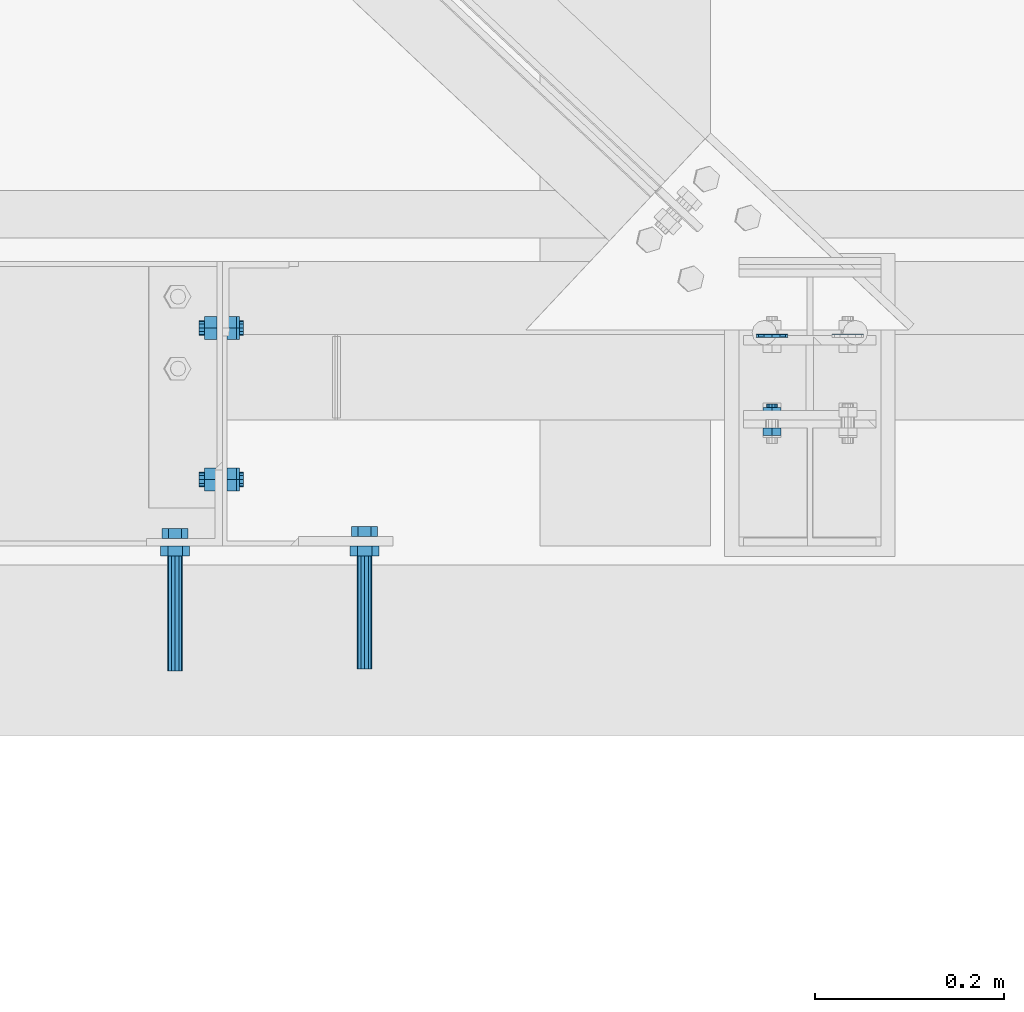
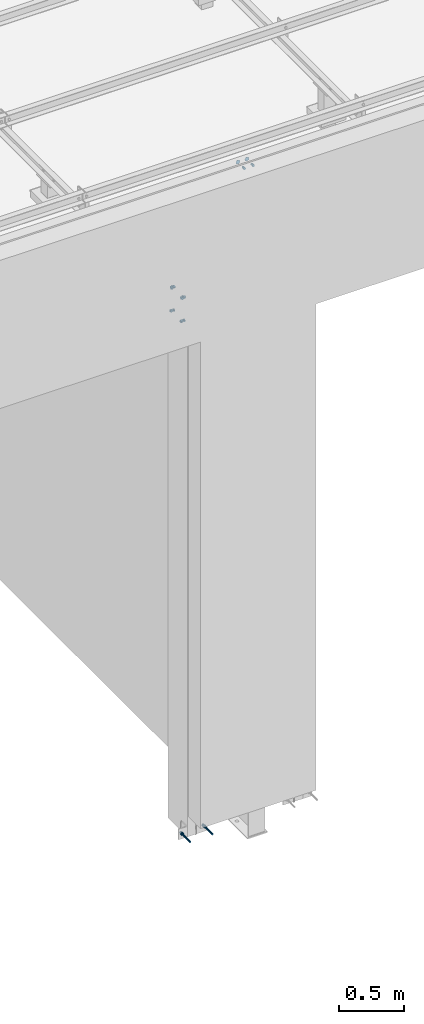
# One storey, part 309 of 3134: 6 mechanical fasteners, 4 elements without a shape of their own.
"""IFC2X3 building model written with IfcOpenShell, lengths in millimetres."""

from ifc_helpers import new_model, si_unit, frame, origin_with_axes, place, context, subcontext, project, spatial, faceted_brep, source, transform, mapped, material, type_object, element, aggregate, save


model = new_model("IFC2X3")

# Units and contexts
model_context = context("Model", 3, precision=1e-05, world=origin_with_axes())
body_context = subcontext(model_context, "Body", "Model", "MODEL_VIEW")
ifc_project = project(units=[si_unit("LENGTHUNIT", "METRE", prefix="MILLI"), si_unit("AREAUNIT", "SQUARE_METRE"), si_unit("VOLUMEUNIT", "CUBIC_METRE"), si_unit("MASSUNIT", "GRAM", prefix="KILO"), si_unit("TIMEUNIT", "SECOND"), si_unit("PLANEANGLEUNIT", "RADIAN"), si_unit("SOLIDANGLEUNIT", "STERADIAN"), si_unit("THERMODYNAMICTEMPERATUREUNIT", "DEGREE_CELSIUS"), si_unit("LUMINOUSINTENSITYUNIT", "LUMEN")], contexts=[model_context])

# Site, building, storey
site_placement = place(None, origin_with_axes())
site = spatial("IfcSite", under=ifc_project, at=site_placement, CompositionType="ELEMENT")
building_placement = place(site_placement, origin_with_axes())
building = spatial("IfcBuilding", under=site, at=building_placement, Name="Undefined", CompositionType="ELEMENT")
storey_placement = place(building_placement, origin_with_axes())
storey = spatial("IfcBuildingStorey", under=building, at=storey_placement, Name="Undefined", CompositionType="ELEMENT", Elevation=0.0)

# Assembly, mechanical fastener
assembly_1_placement = place(storey_placement, origin_with_axes())
assembly_1 = element("IfcElementAssembly", 1, at=assembly_1_placement, inside=storey, AssemblyPlace="NOTDEFINED", PredefinedType="RIGID_FRAME")
ifc_material_1 = material(Name="8.8")
mechanical_fastener_type = type_object("IfcMechanicalFastenerType", Name="Bolt assembly")
shared_shape_1 = source(origin_with_axes(), body_context, "Body", "Brep", [
    faceted_brep([(16.5, -3.0, 0.0), (14.289419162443, -3.0, 8.25000000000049), (8.24999999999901, -3.0, 14.2894191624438), (-1.70995436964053e-12, -3.0, 16.5), (-8.25000000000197, -3.0, 14.2894191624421), (-14.2894191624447, -3.0, 8.24999999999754), (-16.5, -3.0, -3.41990873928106e-12), (-14.2894191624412, -3.0, -8.25000000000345), (-8.24999999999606, -3.0, -14.2894191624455), (5.11154442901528e-12, -3.0, -16.5), (8.25000000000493, -3.0, -14.2894191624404), (14.2894191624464, -3.0, -8.24999999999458), (14.2894191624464, 0.1, -8.24999999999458), (8.25000000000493, 0.1, -14.2894191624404), (5.11154442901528e-12, 0.1, -16.5), (-8.24999999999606, 0.1, -14.2894191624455), (-14.2894191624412, 0.1, -8.25000000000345), (-16.5, 0.1, -3.41990873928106e-12), (-14.2894191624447, 0.1, 8.24999999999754), (-8.25000000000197, 0.1, 14.2894191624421), (-1.70995436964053e-12, 0.1, 16.5), (8.24999999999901, 0.1, 14.2894191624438), (14.289419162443, 0.1, 8.25000000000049), (16.5, 0.1, 0.0)], [[[0, 1, 2, 3, 4, 5, 6, 7, 8, 9, 10, 11]], [[12, 13, 14, 15, 16, 17, 18, 19, 20, 21, 22, 23]], [[0, 23, 22, 1]], [[1, 22, 21, 2]], [[2, 21, 20, 3]], [[3, 20, 19, 4]], [[4, 19, 18, 5]], [[5, 18, 17, 6]], [[6, 17, 16, 7]], [[7, 16, 15, 8]], [[8, 15, 14, 9]], [[9, 14, 13, 10]], [[10, 13, 12, 11]], [[11, 12, 23, 0]]]),
])
mechanical_fastener_1_placement = place(assembly_1_placement, frame((74420.0, -2.0, 5844.99639945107), z_axis=(-1.0, 0.0, 0.0), x_axis=(0.0, 0.0, 1.0)))
mechanical_fastener_1 = element("IfcMechanicalFastener", 2, at=mechanical_fastener_1_placement, type_object=mechanical_fastener_type, material=ifc_material_1, Name="Bolt assembly", NominalDiameter=30.0, NominalLength=3.0, context=body_context, shape_type="MappedRepresentation", body=[
    mapped(shared_shape_1, transform((0.0, 0.0, -40.0))),
    mapped(shared_shape_1, transform((0.0, 0.0, 40.0))),
])

# Assembly, mechanical fasteners
assembly_2_placement = place(storey_placement, origin_with_axes())
assembly_2 = element("IfcElementAssembly", 3, at=assembly_2_placement, inside=storey, AssemblyPlace="NOTDEFINED", PredefinedType="RIGID_FRAME")
ifc_material_2 = material(Name="HILTI-HSA")
shared_shape_2 = source(origin_with_axes(), body_context, "Body", "Brep", [
    faceted_brep([(13.856406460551, -20.56, 0.0), (6.92820323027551, -20.56, 12.0), (-6.92820323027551, -20.56, 12.0), (-13.856406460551, -20.56, 1.69692038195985e-15), (-6.92820323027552, -20.56, -12.0), (6.9282032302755, -20.56, -12.0), (6.9282032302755, -10.0, -12.0), (-6.92820323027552, -10.0, -12.0), (-13.856406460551, -10.0, 1.69692038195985e-15), (-6.92820323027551, -10.0, 12.0), (6.92820323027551, -10.0, 12.0), (13.856406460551, -10.0, 0.0), (8.0, -10.0, 0.0), (6.92820323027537, -10.0, 4.00000000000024), (3.99999999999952, -10.0, 6.92820323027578), (-8.29068785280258e-13, -10.0, 8.0), (-4.00000000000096, -10.0, 6.92820323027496), (-6.9282032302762, -10.0, 3.99999999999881), (-8.0, -10.0, -1.65813757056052e-12), (-6.92820323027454, -10.0, -4.00000000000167), (-3.99999999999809, -10.0, -6.92820323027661), (2.47832457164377e-12, -10.0, -8.0), (4.00000000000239, -10.0, -6.92820323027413), (6.92820323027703, -10.0, -3.99999999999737), (6.92820323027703, 130.0, -3.99999999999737), (4.00000000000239, 130.0, -6.92820323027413), (2.47832457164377e-12, 130.0, -8.0), (-3.99999999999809, 130.0, -6.92820323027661), (-6.92820323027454, 130.0, -4.00000000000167), (-8.0, 130.0, -1.65813757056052e-12), (-6.9282032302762, 130.0, 3.99999999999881), (-4.00000000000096, 130.0, 6.92820323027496), (-8.29068785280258e-13, 130.0, 8.0), (3.99999999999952, 130.0, 6.92820323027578), (6.92820323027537, 130.0, 4.00000000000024), (8.0, 130.0, 0.0), (15.3344231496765, 7.105427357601e-15, 0.0), (7.66721157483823, 7.105427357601e-15, 13.28), (-7.66721157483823, 7.105427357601e-15, 13.28), (-15.3344231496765, 7.105427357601e-15, 1.87792522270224e-15), (-7.66721157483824, 7.105427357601e-15, -13.28), (7.66721157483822, 7.105427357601e-15, -13.28), (7.66721157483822, 10.56, -13.28), (-7.66721157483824, 10.56, -13.28), (-15.3344231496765, 10.56, 1.87792522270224e-15), (-7.66721157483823, 10.56, 13.28), (7.66721157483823, 10.56, 13.28), (15.3344231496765, 10.56, 0.0)], [[[0, 1, 2, 3, 4, 5]], [[6, 7, 8, 9, 10, 11]], [[0, 11, 10, 1]], [[1, 10, 9, 2]], [[2, 9, 8, 3]], [[3, 8, 7, 4]], [[4, 7, 6, 5]], [[5, 6, 11, 0]], [[12, 13, 14, 15, 16, 17, 18, 19, 20, 21, 22, 23]], [[24, 25, 26, 27, 28, 29, 30, 31, 32, 33, 34, 35]], [[12, 35, 34, 13]], [[13, 34, 33, 14]], [[14, 33, 32, 15]], [[15, 32, 31, 16]], [[16, 31, 30, 17]], [[17, 30, 29, 18]], [[18, 29, 28, 19]], [[19, 28, 27, 20]], [[20, 27, 26, 21]], [[21, 26, 25, 22]], [[22, 25, 24, 23]], [[23, 24, 35, 12]], [[36, 37, 38, 39, 40, 41]], [[42, 43, 44, 45, 46, 47]], [[36, 47, 46, 37]], [[37, 46, 45, 38]], [[38, 45, 44, 39]], [[39, 44, 43, 40]], [[40, 43, 42, 41]], [[41, 42, 47, 36]]]),
    faceted_brep([(9.0, -10.0, 0.0), (7.79422863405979, -10.0, 4.50000000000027), (4.49999999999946, -10.0, 7.79422863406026), (-9.3270238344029e-13, -10.0, 9.0), (-4.50000000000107, -10.0, 7.79422863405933), (-7.79422863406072, -10.0, 4.49999999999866), (-9.0, -10.0, -1.86540476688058e-12), (-7.79422863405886, -10.0, -4.50000000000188), (-4.49999999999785, -10.0, -7.79422863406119), (2.78811514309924e-12, -10.0, -9.0), (4.50000000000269, -10.0, -7.7942286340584), (7.79422863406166, -10.0, -4.49999999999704), (7.79422863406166, 0.100000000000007, -4.49999999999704), (4.50000000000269, 0.100000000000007, -7.7942286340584), (2.78811514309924e-12, 0.100000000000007, -9.0), (-4.49999999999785, 0.100000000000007, -7.79422863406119), (-7.79422863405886, 0.100000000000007, -4.50000000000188), (-9.0, 0.100000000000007, -1.86540476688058e-12), (-7.79422863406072, 0.100000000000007, 4.49999999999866), (-4.50000000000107, 0.100000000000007, 7.79422863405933), (-9.3270238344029e-13, 0.100000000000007, 9.0), (4.49999999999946, 0.100000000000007, 7.79422863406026), (7.79422863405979, 0.100000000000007, 4.50000000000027), (9.0, 0.100000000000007, 0.0)], [[[0, 1, 2, 3, 4, 5, 6, 7, 8, 9, 10, 11]], [[12, 13, 14, 15, 16, 17, 18, 19, 20, 21, 22, 23]], [[0, 23, 22, 1]], [[1, 22, 21, 2]], [[2, 21, 20, 3]], [[3, 20, 19, 4]], [[4, 19, 18, 5]], [[5, 18, 17, 6]], [[6, 17, 16, 7]], [[7, 16, 15, 8]], [[8, 15, 14, 9]], [[9, 14, 13, 10]], [[10, 13, 12, 11]], [[11, 12, 23, 0]]]),
])
mechanical_fastener_2_placement = place(assembly_2_placement, frame((73950.0, -225.0, -150.0), z_axis=(0.0, 0.0, 1.0), x_axis=(-1.0, 0.0, 0.0)))
mechanical_fastener_2 = element("IfcMechanicalFastener", 4, at=mechanical_fastener_2_placement, type_object=mechanical_fastener_type, material=ifc_material_2, Name="Bolt assembly", NominalDiameter=16.0, NominalLength=140.0, context=body_context, shape_type="MappedRepresentation", body=[
    mapped(shared_shape_2, transform((0.0, 0.0, 0.0))),
])
shared_shape_3 = source(origin_with_axes(), body_context, "Body", "Brep", [
    faceted_brep([(13.856406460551, -18.56, 0.0), (6.92820323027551, -18.56, 12.0), (-6.92820323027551, -18.56, 12.0), (-13.856406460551, -18.56, 1.69692038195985e-15), (-6.92820323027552, -18.56, -12.0), (6.9282032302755, -18.56, -12.0), (6.9282032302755, -7.99999766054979, -12.0), (-6.92820323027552, -7.99999766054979, -12.0), (-13.856406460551, -7.99999766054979, 1.69692038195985e-15), (-6.92820323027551, -7.99999766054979, 12.0), (6.92820323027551, -7.99999766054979, 12.0), (13.856406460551, -7.99999766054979, 0.0), (8.0, -8.0, 0.0), (6.92820323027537, -8.0, 4.00000000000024), (3.99999999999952, -8.0, 6.92820323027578), (-8.29068785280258e-13, -8.0, 8.0), (-4.00000000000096, -8.0, 6.92820323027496), (-6.9282032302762, -8.0, 3.99999999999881), (-8.0, -8.0, -1.65813757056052e-12), (-6.92820323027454, -8.0, -4.00000000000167), (-3.99999999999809, -8.0, -6.92820323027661), (2.47832457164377e-12, -8.0, -8.0), (4.00000000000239, -8.0, -6.92820323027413), (6.92820323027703, -8.0, -3.99999999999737), (6.92820323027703, 132.0, -3.99999999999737), (4.00000000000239, 132.0, -6.92820323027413), (2.47832457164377e-12, 132.0, -8.0), (-3.99999999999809, 132.0, -6.92820323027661), (-6.92820323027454, 132.0, -4.00000000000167), (-8.0, 132.0, -1.65813757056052e-12), (-6.9282032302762, 132.0, 3.99999999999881), (-4.00000000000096, 132.0, 6.92820323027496), (-8.29068785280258e-13, 132.0, 8.0), (3.99999999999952, 132.0, 6.92820323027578), (6.92820323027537, 132.0, 4.00000000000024), (8.0, 132.0, 0.0), (15.3344231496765, 7.105427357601e-15, 0.0), (7.66721157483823, 7.105427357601e-15, 13.28), (-7.66721157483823, 7.105427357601e-15, 13.28), (-15.3344231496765, 7.105427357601e-15, 1.87792522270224e-15), (-7.66721157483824, 7.105427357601e-15, -13.28), (7.66721157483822, 7.105427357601e-15, -13.28), (7.66721157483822, 10.56, -13.28), (-7.66721157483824, 10.56, -13.28), (-15.3344231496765, 10.56, 1.87792522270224e-15), (-7.66721157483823, 10.56, 13.28), (7.66721157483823, 10.56, 13.28), (15.3344231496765, 10.56, 0.0)], [[[0, 1, 2, 3, 4, 5]], [[6, 7, 8, 9, 10, 11]], [[0, 11, 10, 1]], [[1, 10, 9, 2]], [[2, 9, 8, 3]], [[3, 8, 7, 4]], [[4, 7, 6, 5]], [[5, 6, 11, 0]], [[12, 13, 14, 15, 16, 17, 18, 19, 20, 21, 22, 23]], [[24, 25, 26, 27, 28, 29, 30, 31, 32, 33, 34, 35]], [[12, 35, 34, 13]], [[13, 34, 33, 14]], [[14, 33, 32, 15]], [[15, 32, 31, 16]], [[16, 31, 30, 17]], [[17, 30, 29, 18]], [[18, 29, 28, 19]], [[19, 28, 27, 20]], [[20, 27, 26, 21]], [[21, 26, 25, 22]], [[22, 25, 24, 23]], [[23, 24, 35, 12]], [[36, 37, 38, 39, 40, 41]], [[42, 43, 44, 45, 46, 47]], [[36, 47, 46, 37]], [[37, 46, 45, 38]], [[38, 45, 44, 39]], [[39, 44, 43, 40]], [[40, 43, 42, 41]], [[41, 42, 47, 36]]]),
    faceted_brep([(9.0, -8.0, 0.0), (7.79422863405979, -8.0, 4.50000000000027), (4.49999999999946, -8.0, 7.79422863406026), (-9.3270238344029e-13, -8.0, 9.0), (-4.50000000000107, -8.0, 7.79422863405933), (-7.79422863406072, -8.0, 4.49999999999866), (-9.0, -8.0, -1.86540476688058e-12), (-7.79422863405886, -8.0, -4.50000000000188), (-4.49999999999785, -8.0, -7.79422863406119), (2.78811514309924e-12, -8.0, -9.0), (4.50000000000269, -8.0, -7.7942286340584), (7.79422863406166, -8.0, -4.49999999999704), (7.79422863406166, 0.100000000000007, -4.49999999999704), (4.50000000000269, 0.100000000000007, -7.7942286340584), (2.78811514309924e-12, 0.100000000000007, -9.0), (-4.49999999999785, 0.100000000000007, -7.79422863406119), (-7.79422863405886, 0.100000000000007, -4.50000000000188), (-9.0, 0.100000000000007, -1.86540476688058e-12), (-7.79422863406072, 0.100000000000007, 4.49999999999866), (-4.50000000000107, 0.100000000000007, 7.79422863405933), (-9.3270238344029e-13, 0.100000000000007, 9.0), (4.49999999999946, 0.100000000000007, 7.79422863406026), (7.79422863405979, 0.100000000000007, 4.50000000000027), (9.0, 0.100000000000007, 0.0)], [[[0, 1, 2, 3, 4, 5, 6, 7, 8, 9, 10, 11]], [[12, 13, 14, 15, 16, 17, 18, 19, 20, 21, 22, 23]], [[0, 23, 22, 1]], [[1, 22, 21, 2]], [[2, 21, 20, 3]], [[3, 20, 19, 4]], [[4, 19, 18, 5]], [[5, 18, 17, 6]], [[6, 17, 16, 7]], [[7, 16, 15, 8]], [[8, 15, 14, 9]], [[9, 14, 13, 10]], [[10, 13, 12, 11]], [[11, 12, 23, 0]]]),
])
mechanical_fastener_3_placement = place(assembly_2_placement, frame((73750.0, -225.0, -150.0), z_axis=(0.0, 0.0, -1.0), x_axis=(1.0, 0.0, 0.0)))
mechanical_fastener_3 = element("IfcMechanicalFastener", 5, at=mechanical_fastener_3_placement, type_object=mechanical_fastener_type, material=ifc_material_2, Name="Bolt assembly", NominalDiameter=16.0, NominalLength=140.0, context=body_context, shape_type="MappedRepresentation", body=[
    mapped(shared_shape_3, transform((0.0, 0.0, 0.0))),
])
aggregate(assembly_2, [mechanical_fastener_3, mechanical_fastener_2])

# Assembly, mechanical fastener
assembly_3_placement = place(storey_placement, origin_with_axes())
assembly_3 = element("IfcElementAssembly", 6, at=assembly_3_placement, inside=storey, AssemblyPlace="NOTDEFINED", PredefinedType="RIGID_FRAME")
shared_shape_4 = source(origin_with_axes(), body_context, "Body", "Brep", [
    faceted_brep([(13.856406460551, -15.0000144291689, 0.0), (6.92820323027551, -15.0000144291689, 12.0), (-6.92820323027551, -15.0000144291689, 12.0), (-13.856406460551, -15.0000144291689, 1.69692038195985e-15), (-6.92820323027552, -15.0000144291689, -12.0), (6.9282032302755, -15.0000144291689, -12.0), (6.9282032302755, -5.00001442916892, -12.0), (-6.92820323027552, -5.00001442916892, -12.0), (-13.856406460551, -5.00001442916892, 1.69692038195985e-15), (-6.92820323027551, -5.00001442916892, 12.0), (6.92820323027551, -5.00001442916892, 12.0), (13.856406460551, -5.00001442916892, 0.0), (8.0, -5.00001442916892, 0.0), (6.92820323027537, -5.00001442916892, 4.00000000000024), (3.99999999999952, -5.00001442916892, 6.92820323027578), (-8.29068785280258e-13, -5.00001442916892, 8.0), (-4.00000000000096, -5.00001442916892, 6.92820323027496), (-6.9282032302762, -5.00001442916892, 3.99999999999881), (-8.0, -5.00001442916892, -1.65813757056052e-12), (-6.92820323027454, -5.00001442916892, -4.00000000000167), (-3.99999999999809, -5.00001442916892, -6.92820323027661), (2.47832457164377e-12, -5.00001442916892, -8.0), (4.00000000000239, -5.00001442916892, -6.92820323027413), (6.92820323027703, -5.00001442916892, -3.99999999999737), (6.92820323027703, 25.0, -3.99999999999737), (4.00000000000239, 25.0, -6.92820323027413), (2.47832457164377e-12, 25.0, -8.0), (-3.99999999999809, 25.0, -6.92820323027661), (-6.92820323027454, 25.0, -4.00000000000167), (-8.0, 25.0, -1.65813757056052e-12), (-6.9282032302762, 25.0, 3.99999999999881), (-4.00000000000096, 25.0, 6.92820323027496), (-8.29068785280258e-13, 25.0, 8.0), (3.99999999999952, 25.0, 6.92820323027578), (6.92820323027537, 25.0, 4.00000000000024), (8.0, 25.0, 0.0), (13.856406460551, 5.99999999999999, 0.0), (6.92820323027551, 5.99999999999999, 12.0), (-6.92820323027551, 5.99999999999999, 12.0), (-13.856406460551, 5.99999999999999, 1.69692038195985e-15), (-6.92820323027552, 5.99999999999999, -12.0), (6.9282032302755, 5.99999999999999, -12.0), (6.9282032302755, 19.0, -12.0), (-6.92820323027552, 19.0, -12.0), (-13.856406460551, 19.0, 1.69692038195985e-15), (-6.92820323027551, 19.0, 12.0), (6.92820323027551, 19.0, 12.0), (13.856406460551, 19.0, 0.0)], [[[0, 1, 2, 3, 4, 5]], [[6, 7, 8, 9, 10, 11]], [[0, 11, 10, 1]], [[1, 10, 9, 2]], [[2, 9, 8, 3]], [[3, 8, 7, 4]], [[4, 7, 6, 5]], [[5, 6, 11, 0]], [[12, 13, 14, 15, 16, 17, 18, 19, 20, 21, 22, 23]], [[24, 25, 26, 27, 28, 29, 30, 31, 32, 33, 34, 35]], [[12, 35, 34, 13]], [[13, 34, 33, 14]], [[14, 33, 32, 15]], [[15, 32, 31, 16]], [[16, 31, 30, 17]], [[17, 30, 29, 18]], [[18, 29, 28, 19]], [[19, 28, 27, 20]], [[20, 27, 26, 21]], [[21, 26, 25, 22]], [[22, 25, 24, 23]], [[23, 24, 35, 12]], [[36, 37, 38, 39, 40, 41]], [[42, 43, 44, 45, 46, 47]], [[36, 47, 46, 37]], [[37, 46, 45, 38]], [[38, 45, 44, 39]], [[39, 44, 43, 40]], [[40, 43, 42, 41]], [[41, 42, 47, 36]]]),
    faceted_brep([(9.0, -4.90001442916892, 0.0), (7.79422863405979, -4.90001442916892, 4.50000000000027), (4.49999999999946, -4.90001442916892, 7.79422863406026), (-9.3270238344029e-13, -4.90001442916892, 9.0), (-4.50000000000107, -4.90001442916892, 7.79422863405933), (-7.79422863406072, -4.90001442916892, 4.49999999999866), (-9.0, -4.90001442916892, -1.86540476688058e-12), (-7.79422863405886, -4.90001442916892, -4.50000000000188), (-4.49999999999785, -4.90001442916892, -7.79422863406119), (2.78811514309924e-12, -4.90001442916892, -9.0), (4.50000000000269, -4.90001442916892, -7.7942286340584), (7.79422863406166, -4.90001442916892, -4.49999999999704), (7.79422863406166, 0.100000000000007, -4.49999999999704), (4.50000000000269, 0.100000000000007, -7.7942286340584), (2.78811514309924e-12, 0.100000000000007, -9.0), (-4.49999999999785, 0.100000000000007, -7.79422863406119), (-7.79422863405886, 0.100000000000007, -4.50000000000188), (-9.0, 0.100000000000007, -1.86540476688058e-12), (-7.79422863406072, 0.100000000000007, 4.49999999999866), (-4.50000000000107, 0.100000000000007, 7.79422863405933), (-9.3270238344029e-13, 0.100000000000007, 9.0), (4.49999999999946, 0.100000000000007, 7.79422863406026), (7.79422863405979, 0.100000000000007, 4.50000000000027), (9.0, 0.100000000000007, 0.0), (9.0, -0.1, 0.0), (7.79422863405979, -0.1, 4.50000000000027), (4.49999999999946, -0.1, 7.79422863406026), (-9.3270238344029e-13, -0.1, 9.0), (-4.50000000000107, -0.1, 7.79422863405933), (-7.79422863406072, -0.1, 4.49999999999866), (-9.0, -0.1, -1.86540476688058e-12), (-7.79422863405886, -0.1, -4.50000000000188), (-4.49999999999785, -0.1, -7.79422863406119), (2.78811514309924e-12, -0.1, -9.0), (4.50000000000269, -0.1, -7.7942286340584), (7.79422863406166, -0.1, -4.49999999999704), (7.79422863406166, 5.99999999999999, -4.49999999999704), (4.50000000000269, 5.99999999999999, -7.7942286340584), (2.78811514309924e-12, 5.99999999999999, -9.0), (-4.49999999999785, 5.99999999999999, -7.79422863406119), (-7.79422863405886, 5.99999999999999, -4.50000000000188), (-9.0, 5.99999999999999, -1.86540476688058e-12), (-7.79422863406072, 5.99999999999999, 4.49999999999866), (-4.50000000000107, 5.99999999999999, 7.79422863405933), (-9.3270238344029e-13, 5.99999999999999, 9.0), (4.49999999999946, 5.99999999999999, 7.79422863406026), (7.79422863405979, 5.99999999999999, 4.50000000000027), (9.0, 5.99999999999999, 0.0)], [[[0, 1, 2, 3, 4, 5, 6, 7, 8, 9, 10, 11]], [[12, 13, 14, 15, 16, 17, 18, 19, 20, 21, 22, 23]], [[0, 23, 22, 1]], [[1, 22, 21, 2]], [[2, 21, 20, 3]], [[3, 20, 19, 4]], [[4, 19, 18, 5]], [[5, 18, 17, 6]], [[6, 17, 16, 7]], [[7, 16, 15, 8]], [[8, 15, 14, 9]], [[9, 14, 13, 10]], [[10, 13, 12, 11]], [[11, 12, 23, 0]], [[24, 25, 26, 27, 28, 29, 30, 31, 32, 33, 34, 35]], [[36, 37, 38, 39, 40, 41, 42, 43, 44, 45, 46, 47]], [[24, 47, 46, 25]], [[25, 46, 45, 26]], [[26, 45, 44, 27]], [[27, 44, 43, 28]], [[28, 43, 42, 29]], [[29, 42, 41, 30]], [[30, 41, 40, 31]], [[31, 40, 39, 32]], [[32, 39, 38, 33]], [[33, 38, 37, 34]], [[34, 37, 36, 35]], [[35, 36, 47, 24]]]),
])
mechanical_fastener_4_placement = place(assembly_3_placement, frame((73800.0, -75.0, 4640.0), z_axis=(0.0, -1.0, 0.0), x_axis=(0.0, 0.0, 1.0)))
mechanical_fastener_4 = element("IfcMechanicalFastener", 7, at=mechanical_fastener_4_placement, type_object=mechanical_fastener_type, material=ifc_material_1, Name="Bolt assembly", NominalDiameter=16.0, NominalLength=30.0, context=body_context, shape_type="MappedRepresentation", body=[
    mapped(shared_shape_4, transform((0.0, -5.32963895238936e-10, -79.9999999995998))),
    mapped(shared_shape_4, transform((0.0, 5.3114490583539e-10, 79.9999999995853))),
])
aggregate(assembly_3, [mechanical_fastener_4])

assembly_4_placement = place(storey_placement, origin_with_axes())
assembly_4 = element("IfcElementAssembly", 8, at=assembly_4_placement, inside=storey, AssemblyPlace="NOTDEFINED", PredefinedType="RIGID_FRAME")
shared_shape_5 = source(origin_with_axes(), body_context, "Body", "Brep", [
    faceted_brep([(13.856406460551, -10.0, 0.0), (6.92820323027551, -10.0, 12.0), (-6.92820323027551, -10.0, 12.0), (-13.856406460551, -10.0, 1.69692038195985e-15), (-6.92820323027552, -10.0, -12.0), (6.9282032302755, -10.0, -12.0), (6.9282032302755, 0.0, -12.0), (-6.92820323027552, 0.0, -12.0), (-13.856406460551, 0.0, 1.69692038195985e-15), (-6.92820323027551, 0.0, 12.0), (6.92820323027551, 0.0, 12.0), (13.856406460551, 0.0, 0.0), (8.0, 0.0, 0.0), (6.92820323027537, 0.0, 4.00000000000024), (3.99999999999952, 0.0, 6.92820323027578), (-8.29068785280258e-13, 0.0, 8.0), (-4.00000000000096, 0.0, 6.92820323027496), (-6.9282032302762, 0.0, 3.99999999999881), (-8.0, 0.0, -1.65813757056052e-12), (-6.92820323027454, 0.0, -4.00000000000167), (-3.99999999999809, 0.0, -6.92820323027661), (2.47832457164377e-12, 0.0, -8.0), (4.00000000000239, 0.0, -6.92820323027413), (6.92820323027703, 0.0, -3.99999999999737), (6.92820323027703, 29.9999969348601, -3.99999999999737), (4.00000000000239, 29.9999969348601, -6.92820323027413), (2.47832457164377e-12, 29.9999969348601, -8.0), (-3.99999999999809, 29.9999969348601, -6.92820323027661), (-6.92820323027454, 29.9999969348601, -4.00000000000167), (-8.0, 29.9999969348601, -1.65813757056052e-12), (-6.9282032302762, 29.9999969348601, 3.99999999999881), (-4.00000000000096, 29.9999969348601, 6.92820323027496), (-8.29068785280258e-13, 29.9999969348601, 8.0), (3.99999999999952, 29.9999969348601, 6.92820323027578), (6.92820323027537, 29.9999969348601, 4.00000000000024), (8.0, 29.9999969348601, 0.0), (13.856406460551, 12.9999996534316, 0.0), (6.92820323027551, 12.9999996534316, 12.0), (-6.92820323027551, 12.9999996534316, 12.0), (-13.856406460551, 12.9999996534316, 1.69692038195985e-15), (-6.92820323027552, 12.9999996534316, -12.0), (6.9282032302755, 12.9999996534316, -12.0), (6.9282032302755, 25.9999999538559, -12.0), (-6.92820323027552, 25.9999999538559, -12.0), (-13.856406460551, 25.9999999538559, 1.69692038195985e-15), (-6.92820323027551, 25.9999999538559, 12.0), (6.92820323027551, 25.9999999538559, 12.0), (13.856406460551, 25.9999999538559, 0.0)], [[[0, 1, 2, 3, 4, 5]], [[6, 7, 8, 9, 10, 11]], [[0, 11, 10, 1]], [[1, 10, 9, 2]], [[2, 9, 8, 3]], [[3, 8, 7, 4]], [[4, 7, 6, 5]], [[5, 6, 11, 0]], [[12, 13, 14, 15, 16, 17, 18, 19, 20, 21, 22, 23]], [[24, 25, 26, 27, 28, 29, 30, 31, 32, 33, 34, 35]], [[12, 35, 34, 13]], [[13, 34, 33, 14]], [[14, 33, 32, 15]], [[15, 32, 31, 16]], [[16, 31, 30, 17]], [[17, 30, 29, 18]], [[18, 29, 28, 19]], [[19, 28, 27, 20]], [[20, 27, 26, 21]], [[21, 26, 25, 22]], [[22, 25, 24, 23]], [[23, 24, 35, 12]], [[36, 37, 38, 39, 40, 41]], [[42, 43, 44, 45, 46, 47]], [[36, 47, 46, 37]], [[37, 46, 45, 38]], [[38, 45, 44, 39]], [[39, 44, 43, 40]], [[40, 43, 42, 41]], [[41, 42, 47, 36]]]),
    faceted_brep([(9.0, 7.9, 0.0), (7.79422863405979, 7.9, 4.50000000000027), (4.49999999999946, 7.9, 7.79422863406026), (-9.3270238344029e-13, 7.9, 9.0), (-4.50000000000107, 7.9, 7.79422863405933), (-7.79422863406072, 7.9, 4.49999999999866), (-9.0, 7.9, -1.86540476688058e-12), (-7.79422863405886, 7.9, -4.50000000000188), (-4.49999999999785, 7.9, -7.79422863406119), (2.78811514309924e-12, 7.9, -9.0), (4.50000000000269, 7.9, -7.7942286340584), (7.79422863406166, 7.9, -4.49999999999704), (7.79422863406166, 12.9999999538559, -4.49999999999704), (4.50000000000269, 12.9999999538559, -7.7942286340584), (2.78811514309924e-12, 12.9999999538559, -9.0), (-4.49999999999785, 12.9999999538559, -7.79422863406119), (-7.79422863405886, 12.9999999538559, -4.50000000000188), (-9.0, 12.9999999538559, -1.86540476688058e-12), (-7.79422863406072, 12.9999999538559, 4.49999999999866), (-4.50000000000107, 12.9999999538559, 7.79422863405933), (-9.3270238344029e-13, 12.9999999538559, 9.0), (4.49999999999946, 12.9999999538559, 7.79422863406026), (7.79422863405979, 12.9999999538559, 4.50000000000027), (9.0, 12.9999999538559, 0.0), (20.0, 0.0999999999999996, 0.0), (19.3149157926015, 0.0999999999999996, 3.44415089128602), (17.3639610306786, 0.0999999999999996, 6.36396103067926), (14.4441508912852, 0.0999999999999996, 8.31491579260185), (-11.0000000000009, 0.0999999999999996, 9.0), (-15.5000000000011, 0.0999999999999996, 7.79422863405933), (-18.7942286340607, 0.0999999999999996, 4.49999999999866), (-20.0, 0.0999999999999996, -1.86540476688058e-12), (-18.7942286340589, 0.0999999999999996, -4.50000000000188), (-15.4999999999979, 0.0999999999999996, -7.79422863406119), (-10.9999999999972, 0.0999999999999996, -9.0), (11.0000000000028, 0.0999999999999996, -9.0), (15.5000000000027, 0.0999999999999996, -7.7942286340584), (18.7942286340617, 0.0999999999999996, -4.49999999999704), (20.0, 8.1, 0.0), (18.7942286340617, 8.1, -4.49999999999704), (15.5000000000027, 8.1, -7.7942286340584), (11.0000000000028, 8.1, -9.0), (-10.9999999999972, 8.1, -9.0), (-15.4999999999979, 8.1, -7.79422863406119), (-18.7942286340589, 8.1, -4.50000000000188), (-20.0, 8.1, -1.86540476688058e-12), (-18.7942286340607, 8.1, 4.49999999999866), (-15.5000000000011, 8.1, 7.79422863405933), (-11.0000000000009, 8.1, 9.0), (14.4441508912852, 8.1, 8.31491579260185), (17.3639610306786, 8.1, 6.36396103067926), (19.3149157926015, 8.1, 3.44415089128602)], [[[0, 1, 2, 3, 4, 5, 6, 7, 8, 9, 10, 11]], [[12, 13, 14, 15, 16, 17, 18, 19, 20, 21, 22, 23]], [[0, 23, 22, 1]], [[1, 22, 21, 2]], [[2, 21, 20, 3]], [[3, 20, 19, 4]], [[4, 19, 18, 5]], [[5, 18, 17, 6]], [[6, 17, 16, 7]], [[7, 16, 15, 8]], [[8, 15, 14, 9]], [[9, 14, 13, 10]], [[10, 13, 12, 11]], [[11, 12, 23, 0]], [[24, 25, 26, 27, 28, 29, 30, 31, 32, 33, 34, 35, 36, 37]], [[38, 39, 40, 41, 42, 43, 44, 45, 46, 47, 48, 49, 50, 51]], [[24, 38, 51, 25]], [[25, 51, 50, 26]], [[26, 50, 49, 27]], [[27, 49, 48, 28]], [[28, 48, 47, 29]], [[29, 47, 46, 30]], [[30, 46, 45, 31]], [[31, 45, 44, 32]], [[32, 44, 43, 33]], [[33, 43, 42, 34]], [[34, 42, 41, 35]], [[35, 41, 40, 36]], [[36, 40, 39, 37]], [[37, 39, 38, 24]]]),
])
mechanical_fastener_5_placement = place(assembly_4_placement, frame((73792.0, -75.0, 4859.11), z_axis=(0.0, 1.0, 0.0), x_axis=(0.0, 0.0, 1.0)))
mechanical_fastener_5 = element("IfcMechanicalFastener", 9, at=mechanical_fastener_5_placement, type_object=mechanical_fastener_type, material=ifc_material_1, Name="Bolt assembly", NominalDiameter=16.0, NominalLength=30.0, context=body_context, shape_type="MappedRepresentation", body=[
    mapped(shared_shape_5, transform((0.0, -5.32963895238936e-10, -79.9999999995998))),
    mapped(shared_shape_5, transform((0.0, 5.3114490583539e-10, 79.9999999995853))),
])
aggregate(assembly_4, [mechanical_fastener_5])

# Mechanical fastener
shared_shape_6 = source(origin_with_axes(), body_context, "Body", "Brep", [
    faceted_brep([(10.9696551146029, -16.5, 0.0), (5.48482755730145, -16.5, 9.5), (-5.48482755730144, -16.5, 9.5), (-10.9696551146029, -16.5, 1.34339530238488e-15), (-5.48482755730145, -16.5, -9.5), (5.48482755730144, -16.5, -9.50000000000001), (5.48482755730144, -8.5, -9.50000000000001), (-5.48482755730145, -8.5, -9.5), (-10.9696551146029, -8.5, 1.34339530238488e-15), (-5.48482755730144, -8.5, 9.5), (5.48482755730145, -8.5, 9.5), (10.9696551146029, -8.5, 0.0), (6.0, -8.5, 0.0), (5.19615242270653, -8.5, 3.00000000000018), (2.99999999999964, -8.5, 5.19615242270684), (-6.21801588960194e-13, -8.5, 6.0), (-3.00000000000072, -8.5, 5.19615242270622), (-5.19615242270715, -8.5, 2.9999999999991), (-6.0, -8.5, -1.24360317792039e-12), (-5.19615242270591, -8.5, -3.00000000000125), (-2.99999999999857, -8.5, -5.19615242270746), (1.85874342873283e-12, -8.5, -6.0), (3.00000000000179, -8.5, -5.1961524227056), (5.19615242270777, -8.5, -2.99999999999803), (5.19615242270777, 16.5, -2.99999999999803), (3.00000000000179, 16.5, -5.1961524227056), (1.85874342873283e-12, 16.5, -6.0), (-2.99999999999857, 16.5, -5.19615242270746), (-5.19615242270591, 16.5, -3.00000000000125), (-6.0, 16.5, -1.24360317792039e-12), (-5.19615242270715, 16.5, 2.9999999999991), (-3.00000000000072, 16.5, 5.19615242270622), (-6.21801588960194e-13, 16.5, 6.0), (2.99999999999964, 16.5, 5.19615242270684), (5.19615242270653, 16.5, 3.00000000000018), (6.0, 16.5, 0.0), (10.9696551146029, 3.00000000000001, 0.0), (5.48482755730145, 3.00000000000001, 9.5), (-5.48482755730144, 3.00000000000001, 9.5), (-10.9696551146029, 3.00000000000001, 1.34339530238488e-15), (-5.48482755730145, 3.00000000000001, -9.5), (5.48482755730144, 3.00000000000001, -9.50000000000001), (5.48482755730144, 13.0, -9.50000000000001), (-5.48482755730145, 13.0, -9.5), (-10.9696551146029, 13.0, 1.34339530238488e-15), (-5.48482755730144, 13.0, 9.5), (5.48482755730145, 13.0, 9.5), (10.9696551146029, 13.0, 0.0)], [[[0, 1, 2, 3, 4, 5]], [[6, 7, 8, 9, 10, 11]], [[0, 11, 10, 1]], [[1, 10, 9, 2]], [[2, 9, 8, 3]], [[3, 8, 7, 4]], [[4, 7, 6, 5]], [[5, 6, 11, 0]], [[12, 13, 14, 15, 16, 17, 18, 19, 20, 21, 22, 23]], [[24, 25, 26, 27, 28, 29, 30, 31, 32, 33, 34, 35]], [[12, 35, 34, 13]], [[13, 34, 33, 14]], [[14, 33, 32, 15]], [[15, 32, 31, 16]], [[16, 31, 30, 17]], [[17, 30, 29, 18]], [[18, 29, 28, 19]], [[19, 28, 27, 20]], [[20, 27, 26, 21]], [[21, 26, 25, 22]], [[22, 25, 24, 23]], [[23, 24, 35, 12]], [[36, 37, 38, 39, 40, 41]], [[42, 43, 44, 45, 46, 47]], [[36, 47, 46, 37]], [[37, 46, 45, 38]], [[38, 45, 44, 39]], [[39, 44, 43, 40]], [[40, 43, 42, 41]], [[41, 42, 47, 36]]]),
    faceted_brep([(7.0, -8.4, 0.0), (6.06217782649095, -8.4, 3.50000000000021), (3.49999999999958, -8.4, 6.06217782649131), (-7.25435187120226e-13, -8.4, 7.0), (-3.50000000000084, -8.4, 6.06217782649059), (-6.06217782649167, -8.4, 3.49999999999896), (-7.0, -8.4, -1.45087037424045e-12), (-6.06217782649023, -8.4, -3.50000000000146), (-3.49999999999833, -8.4, -6.06217782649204), (2.1685340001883e-12, -8.4, -7.0), (3.50000000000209, -8.4, -6.06217782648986), (6.0621778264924, -8.4, -3.4999999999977), (6.0621778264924, 0.0999999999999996, -3.4999999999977), (3.50000000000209, 0.0999999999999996, -6.06217782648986), (2.1685340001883e-12, 0.0999999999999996, -7.0), (-3.49999999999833, 0.0999999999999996, -6.06217782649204), (-6.06217782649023, 0.0999999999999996, -3.50000000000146), (-7.0, 0.0999999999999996, -1.45087037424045e-12), (-6.06217782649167, 0.0999999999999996, 3.49999999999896), (-3.50000000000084, 0.0999999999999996, 6.06217782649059), (-7.25435187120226e-13, 0.0999999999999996, 7.0), (3.49999999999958, 0.0999999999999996, 6.06217782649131), (6.06217782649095, 0.0999999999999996, 3.50000000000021), (7.0, 0.0999999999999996, 0.0), (7.0, -0.1, 0.0), (6.06217782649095, -0.1, 3.50000000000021), (3.49999999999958, -0.1, 6.06217782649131), (-7.25435187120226e-13, -0.1, 7.0), (-3.50000000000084, -0.1, 6.06217782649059), (-6.06217782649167, -0.1, 3.49999999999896), (-7.0, -0.1, -1.45087037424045e-12), (-6.06217782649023, -0.1, -3.50000000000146), (-3.49999999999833, -0.1, -6.06217782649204), (2.1685340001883e-12, -0.1, -7.0), (3.50000000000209, -0.1, -6.06217782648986), (6.0621778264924, -0.1, -3.4999999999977), (6.0621778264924, 3.0, -3.4999999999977), (3.50000000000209, 3.0, -6.06217782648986), (2.1685340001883e-12, 3.0, -7.0), (-3.49999999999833, 3.0, -6.06217782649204), (-6.06217782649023, 3.0, -3.50000000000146), (-7.0, 3.0, -1.45087037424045e-12), (-6.06217782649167, 3.0, 3.49999999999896), (-3.50000000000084, 3.0, 6.06217782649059), (-7.25435187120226e-13, 3.0, 7.0), (3.49999999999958, 3.0, 6.06217782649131), (6.06217782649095, 3.0, 3.50000000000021), (7.0, 3.0, 0.0)], [[[0, 1, 2, 3, 4, 5, 6, 7, 8, 9, 10, 11]], [[12, 13, 14, 15, 16, 17, 18, 19, 20, 21, 22, 23]], [[0, 23, 22, 1]], [[1, 22, 21, 2]], [[2, 21, 20, 3]], [[3, 20, 19, 4]], [[4, 19, 18, 5]], [[5, 18, 17, 6]], [[6, 17, 16, 7]], [[7, 16, 15, 8]], [[8, 15, 14, 9]], [[9, 14, 13, 10]], [[10, 13, 12, 11]], [[11, 12, 23, 0]], [[24, 25, 26, 27, 28, 29, 30, 31, 32, 33, 34, 35]], [[36, 37, 38, 39, 40, 41, 42, 43, 44, 45, 46, 47]], [[24, 47, 46, 25]], [[25, 46, 45, 26]], [[26, 45, 44, 27]], [[27, 44, 43, 28]], [[28, 43, 42, 29]], [[29, 42, 41, 30]], [[30, 41, 40, 31]], [[31, 40, 39, 32]], [[32, 39, 38, 33]], [[33, 38, 37, 34]], [[34, 37, 36, 35]], [[35, 36, 47, 24]]]),
])
mechanical_fastener_6_placement = place(assembly_1_placement, frame((74420.0, -92.0, 5844.99639945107), z_axis=(-1.0, 0.0, 0.0), x_axis=(0.0, 0.0, 1.0)))
mechanical_fastener_6 = element("IfcMechanicalFastener", 10, at=mechanical_fastener_6_placement, type_object=mechanical_fastener_type, material=ifc_material_1, Name="Bolt assembly", NominalDiameter=12.0, NominalLength=25.0, context=body_context, shape_type="MappedRepresentation", body=[
    mapped(shared_shape_6, transform((0.0, 0.0, -40.0))),
    mapped(shared_shape_6, transform((0.0, 0.0, 40.0))),
])

aggregate(assembly_1, [mechanical_fastener_1, mechanical_fastener_6])

save(model, "model.ifc")
